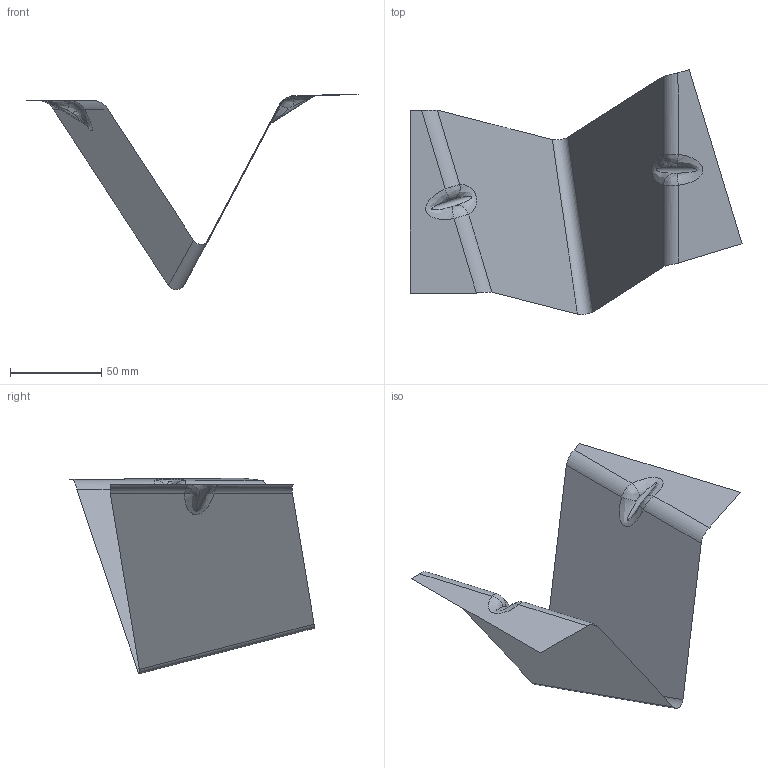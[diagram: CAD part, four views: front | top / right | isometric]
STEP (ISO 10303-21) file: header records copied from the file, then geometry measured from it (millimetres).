
FILE_DESCRIPTION(('CATIA V5 STEP Exchange'),'2;1');
FILE_NAME('C:\_Andres\UNIVERSIDAD\IQS\ASIGNATURAS\DAO\EXF\EXF-16172c\2inicio\Garcia_Granada_Ej03_v37.stp','2017-03-05T19:32:37+00:00',('none'),('none'),'CATIA Version 5-6 Release 2014 SP1 HF18','CATIA V5 STEP AP203','none');
FILE_SCHEMA(('CONFIG_CONTROL_DESIGN'));
Length unit declared in the file: millimetre
Products named in the file (1): Garcia_Granada_Ej03_v37
Bounding box: 182.25 x 134.38 x 107.23 mm (x, y, z)
Surface area: 27891.5 mm2 (no closed solid volume)
Topology: 0 solids, 1 shells, 19 faces, 50 edges, 32 vertices
Faces by surface type: bspline 8, cylinder 7, plane 4
Entity records: 2231 total; most frequent: CARTESIAN_POINT 1822, ORIENTED_EDGE 84, EDGE_CURVE 50, DIRECTION 40, VERTEX_POINT 32, B_SPLINE_CURVE_WITH_KNOTS 28, VECTOR 20, LINE 20
